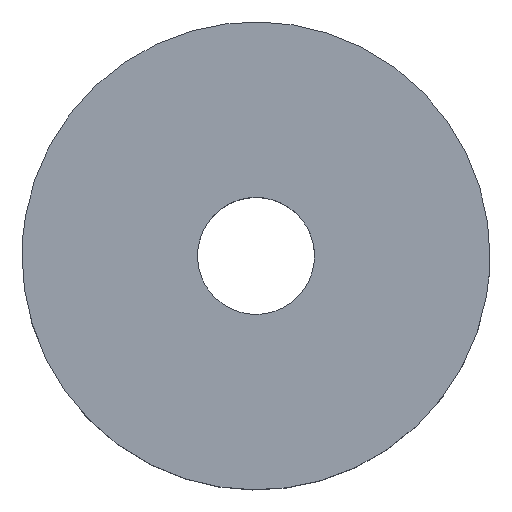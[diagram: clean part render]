
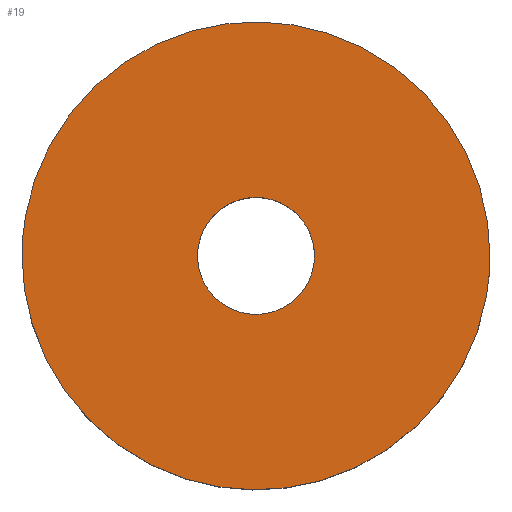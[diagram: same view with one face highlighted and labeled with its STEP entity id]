
A CAD part, top view. The second image highlights one B-rep face of the part: STEP entity #19.
In plain terms, the highlighted planar face has unit normal (0, 0, 1).
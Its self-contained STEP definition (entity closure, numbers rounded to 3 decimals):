
#16=FACE_BOUND('',#33,.T.);
#19=ADVANCED_FACE('',(#25,#16),#94,.T.);
#25=FACE_OUTER_BOUND('',#32,.T.);
#32=EDGE_LOOP('',(#45,#46));
#33=EDGE_LOOP('',(#47,#48));
#45=ORIENTED_EDGE('',*,*,#63,.T.);
#46=ORIENTED_EDGE('',*,*,#69,.T.);
#47=ORIENTED_EDGE('',*,*,#65,.T.);
#48=ORIENTED_EDGE('',*,*,#72,.T.);
#63=EDGE_CURVE('',#86,#90,#75,.T.);
#65=EDGE_CURVE('',#88,#91,#77,.T.);
#69=EDGE_CURVE('',#90,#86,#81,.T.);
#72=EDGE_CURVE('',#91,#88,#84,.T.);
#75=(
BOUNDED_CURVE()
B_SPLINE_CURVE(2,(#186,#187,#188,#189,#190),.UNSPECIFIED.,.F.,.F.)
B_SPLINE_CURVE_WITH_KNOTS((3,2,3),(0.,62.832,125.664),
 .UNSPECIFIED.)
CURVE()
GEOMETRIC_REPRESENTATION_ITEM()
RATIONAL_B_SPLINE_CURVE((1.,0.707,1.,0.707,1.))
REPRESENTATION_ITEM('')
);
#77=(
BOUNDED_CURVE()
B_SPLINE_CURVE(2,(#196,#197,#198,#199,#200),.UNSPECIFIED.,.F.,.F.)
B_SPLINE_CURVE_WITH_KNOTS((3,2,3),(-62.832,-47.124,
-31.416),.UNSPECIFIED.)
CURVE()
GEOMETRIC_REPRESENTATION_ITEM()
RATIONAL_B_SPLINE_CURVE((1.,0.707,1.,0.707,1.))
REPRESENTATION_ITEM('')
);
#81=(
BOUNDED_CURVE()
B_SPLINE_CURVE(2,(#210,#211,#212,#213,#214),.UNSPECIFIED.,.F.,.F.)
B_SPLINE_CURVE_WITH_KNOTS((3,2,3),(125.664,188.496,251.327),
 .UNSPECIFIED.)
CURVE()
GEOMETRIC_REPRESENTATION_ITEM()
RATIONAL_B_SPLINE_CURVE((1.,0.707,1.,0.707,1.))
REPRESENTATION_ITEM('')
);
#84=(
BOUNDED_CURVE()
B_SPLINE_CURVE(2,(#222,#223,#224,#225,#226),.UNSPECIFIED.,.F.,.F.)
B_SPLINE_CURVE_WITH_KNOTS((3,2,3),(-31.416,-15.708,
0.),.UNSPECIFIED.)
CURVE()
GEOMETRIC_REPRESENTATION_ITEM()
RATIONAL_B_SPLINE_CURVE((1.,0.707,1.,0.707,1.))
REPRESENTATION_ITEM('')
);
#86=VERTEX_POINT('',#172);
#88=VERTEX_POINT('',#174);
#90=VERTEX_POINT('',#176);
#91=VERTEX_POINT('',#177);
#94=PLANE('',#120);
#120=AXIS2_PLACEMENT_3D('',#140,#125,$);
#125=DIRECTION('',(0.,0.,1.));
#140=CARTESIAN_POINT('',(-50.,-50.,20.));
#172=CARTESIAN_POINT('',(40.,0.,20.));
#174=CARTESIAN_POINT('',(10.,0.,20.));
#176=CARTESIAN_POINT('',(-40.,0.,20.));
#177=CARTESIAN_POINT('',(-10.,0.,20.));
#186=CARTESIAN_POINT('',(40.,0.,20.));
#187=CARTESIAN_POINT('',(40.,40.,20.));
#188=CARTESIAN_POINT('',(0.,40.,20.));
#189=CARTESIAN_POINT('',(-40.,40.,20.));
#190=CARTESIAN_POINT('',(-40.,0.,20.));
#196=CARTESIAN_POINT('',(10.,0.,20.));
#197=CARTESIAN_POINT('',(10.,-10.,20.));
#198=CARTESIAN_POINT('',(0.,-10.,20.));
#199=CARTESIAN_POINT('',(-10.,-10.,20.));
#200=CARTESIAN_POINT('',(-10.,0.,20.));
#210=CARTESIAN_POINT('',(-40.,0.,20.));
#211=CARTESIAN_POINT('',(-40.,-40.,20.));
#212=CARTESIAN_POINT('',(0.,-40.,20.));
#213=CARTESIAN_POINT('',(40.,-40.,20.));
#214=CARTESIAN_POINT('',(40.,0.,20.));
#222=CARTESIAN_POINT('',(-10.,0.,20.));
#223=CARTESIAN_POINT('',(-10.,10.,20.));
#224=CARTESIAN_POINT('',(0.,10.,20.));
#225=CARTESIAN_POINT('',(10.,10.,20.));
#226=CARTESIAN_POINT('',(10.,0.,20.));
